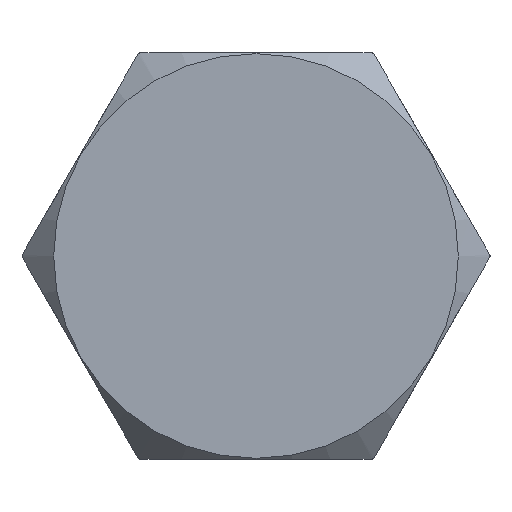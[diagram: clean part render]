
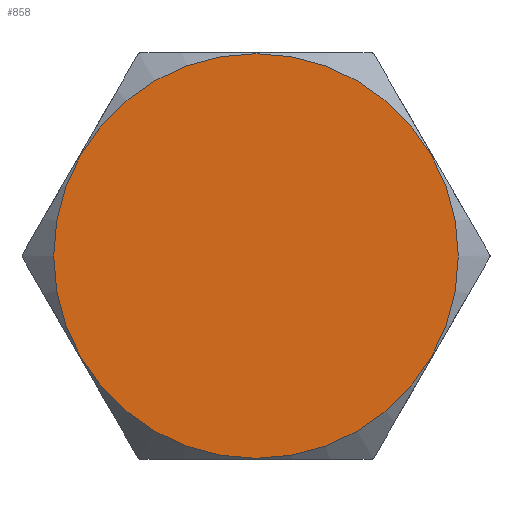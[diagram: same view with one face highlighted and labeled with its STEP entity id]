
A CAD part, front view. The second image highlights one B-rep face of the part: STEP entity #858.
In plain terms, the highlighted planar face has unit normal (0, -1, 0).
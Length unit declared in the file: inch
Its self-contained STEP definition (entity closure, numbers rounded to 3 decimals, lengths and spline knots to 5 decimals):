
#56=PLANE('',#985);
#194=FACE_OUTER_BOUND('',#246,.T.);
#246=EDGE_LOOP('',(#738));
#308=CIRCLE('',#982,0.498);
#405=VERTEX_POINT('',#1614);
#520=EDGE_CURVE('',#405,#405,#308,.T.);
#738=ORIENTED_EDGE('',*,*,#520,.F.);
#858=ADVANCED_FACE('',(#194),#56,.T.);
#982=AXIS2_PLACEMENT_3D('',#1615,#1199,#1200);
#985=AXIS2_PLACEMENT_3D('',#1619,#1206,#1207);
#1199=DIRECTION('center_axis',(0.,1.,0.));
#1200=DIRECTION('ref_axis',(0.,0.,1.));
#1206=DIRECTION('center_axis',(0.,-1.,0.));
#1207=DIRECTION('ref_axis',(0.,0.,-1.));
#1614=CARTESIAN_POINT('',(0.,0.,-0.498));
#1615=CARTESIAN_POINT('Origin',(0.,0.,0.));
#1619=CARTESIAN_POINT('Origin',(0.,0.,0.));
